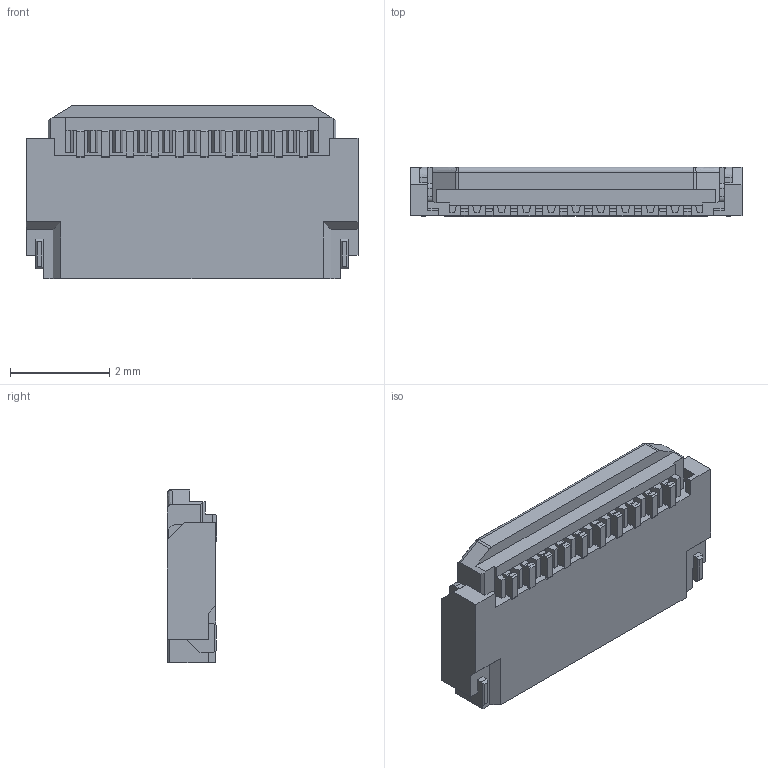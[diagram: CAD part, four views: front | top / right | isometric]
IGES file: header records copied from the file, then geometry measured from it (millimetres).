
Start section: SolidWorks IGES file using analytic representation for surfaces
Bounding box: 6.7 x 1 x 3.5 mm (x, y, z)
Surface area: 70.9 mm2 (no closed solid volume)
Topology: 0 solids, 0 shells, 277 faces, 1866 edges, 1862 vertices
Faces by surface type: bspline 224, revolution 53
